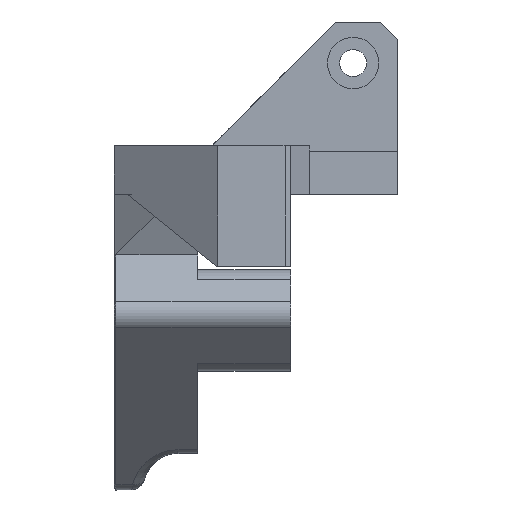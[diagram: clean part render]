
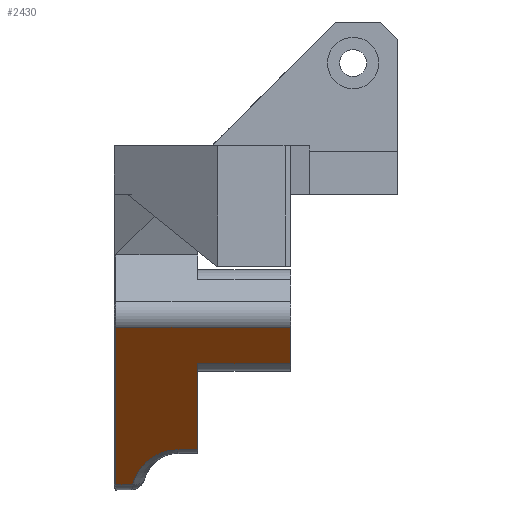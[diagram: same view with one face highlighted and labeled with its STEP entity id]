
A CAD part, left-side view. The second image highlights one B-rep face of the part: STEP entity #2430.
In plain terms, the highlighted planar face has unit normal (-0.707, 0, -0.707).
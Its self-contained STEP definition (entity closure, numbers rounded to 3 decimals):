
#27=ELLIPSE('',#2608,7.778,5.5);
#333=FACE_OUTER_BOUND('',#486,.T.);
#486=EDGE_LOOP('',(#1879,#1880,#1881,#1882,#1883,#1884,#1885,#1886));
#683=LINE('',#3926,#888);
#691=LINE('',#4096,#896);
#692=LINE('',#4098,#897);
#693=LINE('',#4100,#898);
#694=LINE('',#4102,#899);
#695=LINE('',#4104,#900);
#696=LINE('',#4105,#901);
#888=VECTOR('',#3003,10.);
#896=VECTOR('',#3053,10.);
#897=VECTOR('',#3054,10.);
#898=VECTOR('',#3055,10.);
#899=VECTOR('',#3056,10.);
#900=VECTOR('',#3057,10.);
#901=VECTOR('',#3058,2.133);
#1129=VERTEX_POINT('',#3923);
#1130=VERTEX_POINT('',#3925);
#1132=VERTEX_POINT('',#3972);
#1146=VERTEX_POINT('',#4095);
#1147=VERTEX_POINT('',#4097);
#1148=VERTEX_POINT('',#4099);
#1149=VERTEX_POINT('',#4101);
#1150=VERTEX_POINT('',#4103);
#1401=EDGE_CURVE('',#1129,#1130,#683,.T.);
#1406=EDGE_CURVE('',#1130,#1132,#27,.T.);
#1427=EDGE_CURVE('',#1129,#1146,#691,.T.);
#1428=EDGE_CURVE('',#1147,#1146,#692,.T.);
#1429=EDGE_CURVE('',#1148,#1147,#693,.T.);
#1430=EDGE_CURVE('',#1149,#1148,#694,.T.);
#1431=EDGE_CURVE('',#1150,#1149,#695,.T.);
#1432=EDGE_CURVE('',#1132,#1150,#696,.T.);
#1879=ORIENTED_EDGE('',*,*,#1406,.F.);
#1880=ORIENTED_EDGE('',*,*,#1401,.F.);
#1881=ORIENTED_EDGE('',*,*,#1427,.T.);
#1882=ORIENTED_EDGE('',*,*,#1428,.F.);
#1883=ORIENTED_EDGE('',*,*,#1429,.F.);
#1884=ORIENTED_EDGE('',*,*,#1430,.F.);
#1885=ORIENTED_EDGE('',*,*,#1431,.F.);
#1886=ORIENTED_EDGE('',*,*,#1432,.F.);
#2345=PLANE('',#2625);
#2430=ADVANCED_FACE('',(#333),#2345,.T.);
#2608=AXIS2_PLACEMENT_3D('',#3976,#3011,#3012);
#2625=AXIS2_PLACEMENT_3D('',#4094,#3051,#3052);
#3003=DIRECTION('',(0.,1.,0.));
#3011=DIRECTION('center_axis',(-0.707,0.,
-0.707));
#3012=DIRECTION('ref_axis',(-0.707,0.,0.707));
#3051=DIRECTION('center_axis',(-0.707,0.,
-0.707));
#3052=DIRECTION('ref_axis',(0.707,0.,-0.707));
#3053=DIRECTION('',(-0.707,0.,0.707));
#3054=DIRECTION('',(0.,1.,0.));
#3055=DIRECTION('',(0.707,0.,-0.707));
#3056=DIRECTION('',(0.,-1.,0.));
#3057=DIRECTION('',(-0.707,0.,0.707));
#3058=DIRECTION('',(0.,1.,0.));
#3923=CARTESIAN_POINT('',(18.839,42.458,2.172));
#3925=CARTESIAN_POINT('',(18.839,44.75,2.172));
#3926=CARTESIAN_POINT('',(18.839,48.454,2.172));
#3972=CARTESIAN_POINT('',(22.898,50.058,-1.887));
#3976=CARTESIAN_POINT('Origin',(24.339,44.75,-3.328));
#4094=CARTESIAN_POINT('Origin',(4.55,51.908,16.462));
#4095=CARTESIAN_POINT('',(8.775,42.458,12.237));
#4096=CARTESIAN_POINT('',(6.651,42.458,14.36));
#4097=CARTESIAN_POINT('',(8.775,31.62,12.237));
#4098=CARTESIAN_POINT('',(8.775,46.636,12.237));
#4099=CARTESIAN_POINT('',(4.55,31.62,16.462));
#4100=CARTESIAN_POINT('',(10.867,31.62,10.145));
#4101=CARTESIAN_POINT('',(4.55,52.008,16.462));
#4102=CARTESIAN_POINT('',(4.55,40.858,16.462));
#4103=CARTESIAN_POINT('',(22.898,52.008,-1.887));
#4104=CARTESIAN_POINT('',(10.867,52.008,10.145));
#4105=CARTESIAN_POINT('',(22.898,50.261,-1.887));
